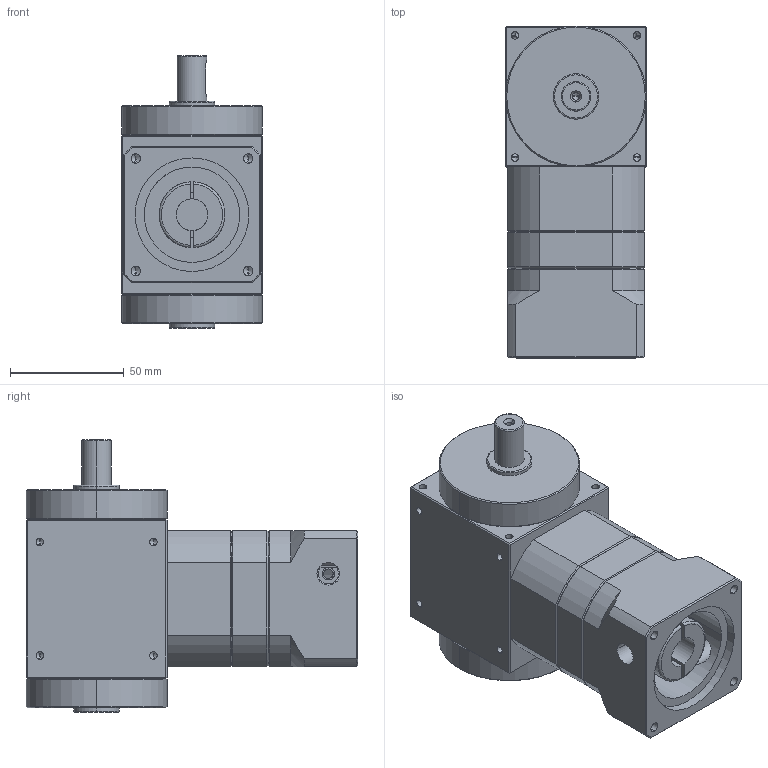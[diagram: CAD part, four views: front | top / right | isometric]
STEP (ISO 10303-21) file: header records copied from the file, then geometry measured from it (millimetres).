
FILE_DESCRIPTION (( 'STEP AP203' ), '1' );
FILE_NAME ('MF60HT-S1-L2£r50PCD£r70M5.STEP', '2019-03-26T08:37:46', ( 'KELLY' ), ( '' ), 'SwSTEP 2.0', 'SolidWorks 2012', '' );
FILE_SCHEMA (( 'CONFIG_CONTROL_DESIGN' ));
Length unit declared in the file: millimetre
Products named in the file (1): MF60HT-S1-L2｣r50PCD｣r70M5
Bounding box: 62 x 146 x 120 mm (x, y, z)
Volume: 589423.8 mm3; surface area: 87683.7 mm2
Topology: 7 solids, 7 shells, 308 faces, 757 edges, 422 vertices
Faces by surface type: cylinder 121, plane 93, cone 84, torus 10
Entity records: 9612 total; most frequent: CARTESIAN_POINT 2627, DIRECTION 1452, ORIENTED_EDGE 1414, EDGE_CURVE 707, AXIS2_PLACEMENT_3D 564, VERTEX_POINT 422, EDGE_LOOP 353, LINE 324
